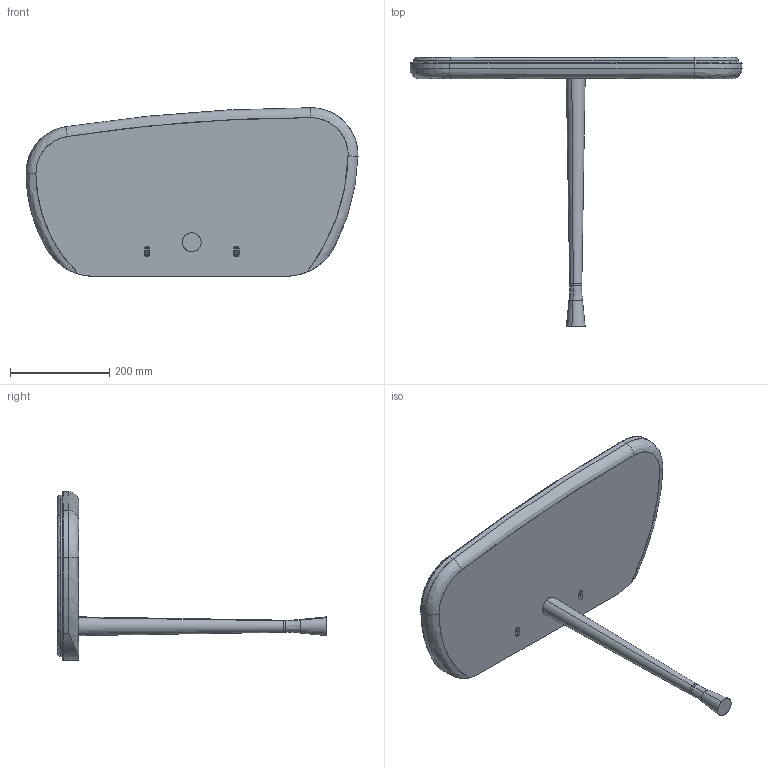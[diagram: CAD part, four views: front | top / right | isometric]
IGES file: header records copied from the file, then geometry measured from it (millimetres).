
Start section: SolidWorks IGES file using analytic representation for surfaces
Global section: file name: N:\OT\OFICINA TECNICA\PROYECTOS\EN DESARROLLO\COLECCION_MOMENTOS\MESITA_CONSOLA\3D-PLANOS\MESITA\MESITA_MARMOL.IGS; native system: SolidWorks 2016; preprocessor: SolidWorks 2016; author: Usuario; date: 170505.093708; units: millimetre
Bounding box: 670 x 543 x 340 mm (x, y, z)
Surface area: 950010.7 mm2 (no closed solid volume)
Topology: 0 solids, 0 shells, 158 faces, 2253 edges, 2253 vertices
Faces by surface type: bspline 85, revolution 73
